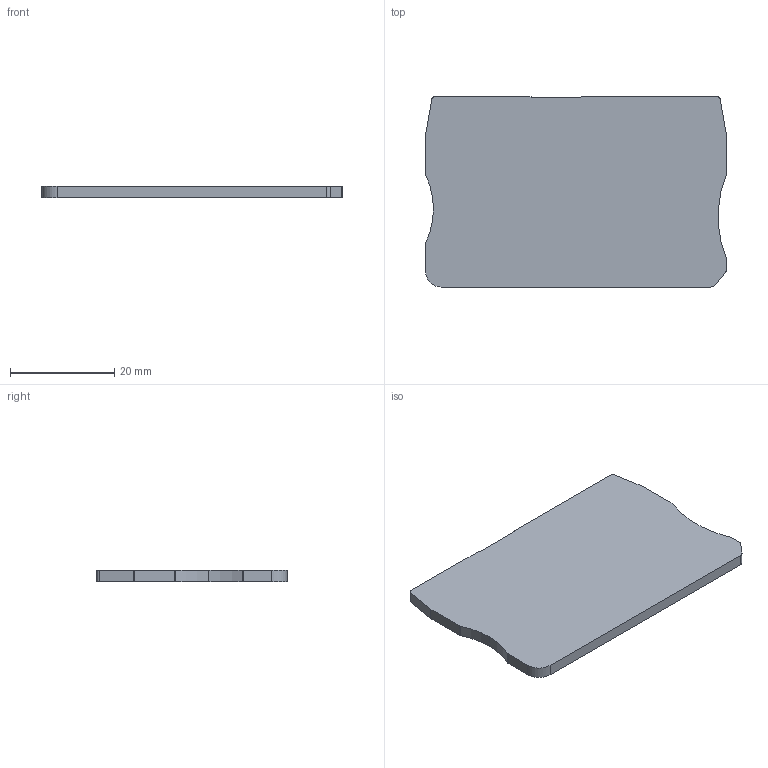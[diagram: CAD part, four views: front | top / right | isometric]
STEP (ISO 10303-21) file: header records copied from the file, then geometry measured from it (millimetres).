
FILE_DESCRIPTION( ('This file contains a STEP AP42 implementation' ,'as created by ZW3D STEP Interface translator.') ,'2;1' );
FILE_NAME( 'D-RPV6傷啣耀倰.stp' ,'22 928. 9 943', (''), ('ZWCAD Software Co.'), 'Version 1.0', 'ZW3D to STEP translator', '' );
FILE_SCHEMA(('AUTOMOTIVE_DESIGN { 1 0 10303 214 1 1 1 1 }'));
Length unit declared in the file: millimetre
Products named in the file (2): 0; D-RPV6傷啣耀倰
Bounding box: 57.73 x 36.5 x 2.2 mm (x, y, z)
Volume: 4532.6 mm3; surface area: 4525.4 mm2
Topology: 1 solids, 1 shells, 29 faces, 81 edges, 54 vertices
Faces by surface type: plane 15, cylinder 14
Entity records: 1009 total; most frequent: DIRECTION 169, CARTESIAN_POINT 165, ORIENTED_EDGE 162, EDGE_CURVE 81, AXIS2_PLACEMENT_3D 58, VERTEX_POINT 54, VECTOR 53, LINE 53
